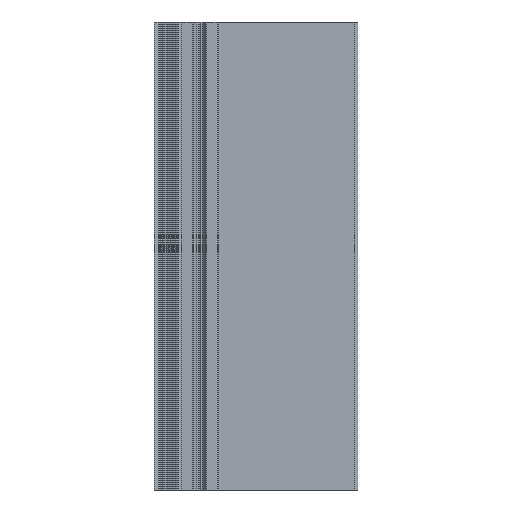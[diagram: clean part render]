
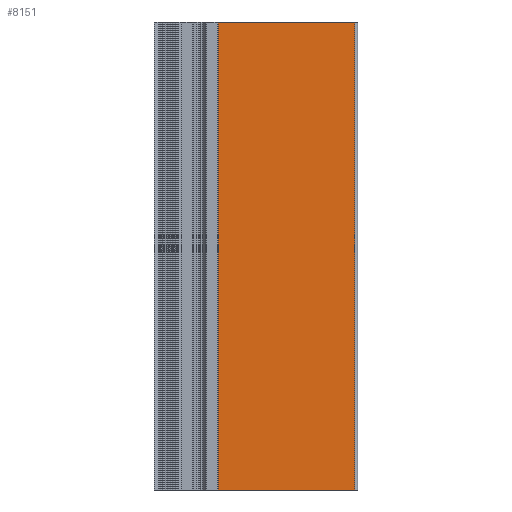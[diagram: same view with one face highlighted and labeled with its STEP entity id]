
A CAD part, front view. The second image highlights one B-rep face of the part: STEP entity #8151.
In plain terms, the highlighted planar face has unit normal (0, -1, 0).
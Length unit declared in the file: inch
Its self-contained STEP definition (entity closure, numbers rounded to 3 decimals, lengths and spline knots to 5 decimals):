
#38 = DIRECTION ( 'NONE',  ( 1., 0., 0. ) ) ;
#209 = VECTOR ( 'NONE', #5958, 39.37008 ) ;
#284 = CARTESIAN_POINT ( 'NONE',  ( -0.47877, -1.43606, -6. ) ) ;
#485 = FACE_OUTER_BOUND ( 'NONE', #5348, .T. ) ;
#704 = VERTEX_POINT ( 'NONE', #1952 ) ;
#1099 = EDGE_CURVE ( 'NONE', #7245, #704, #6972, .T. ) ;
#1256 = VERTEX_POINT ( 'NONE', #4640 ) ;
#1563 = CARTESIAN_POINT ( 'NONE',  ( -0.47877, -1.43606, 6. ) ) ;
#1734 = PLANE ( 'NONE',  #2864 ) ;
#1825 = DIRECTION ( 'NONE',  ( 0., 0., 1. ) ) ;
#1900 = DIRECTION ( 'NONE',  ( 1., 0., 0. ) ) ;
#1952 = CARTESIAN_POINT ( 'NONE',  ( 3.01997, -1.43606, -6. ) ) ;
#1990 = ORIENTED_EDGE ( 'NONE', *, *, #1099, .T. ) ;
#2270 = VECTOR ( 'NONE', #1825, 39.37008 ) ;
#2322 = LINE ( 'NONE', #284, #209 ) ;
#2513 = VECTOR ( 'NONE', #38, 39.37008 ) ;
#2847 = EDGE_CURVE ( 'NONE', #7779, #1256, #8218, .T. ) ;
#2864 = AXIS2_PLACEMENT_3D ( 'NONE', #3600, #6633, #2939 ) ;
#2939 = DIRECTION ( 'NONE',  ( 0., 0., -1. ) ) ;
#3114 = CARTESIAN_POINT ( 'NONE',  ( -0.47877, -1.43606, -6. ) ) ;
#3195 = LINE ( 'NONE', #3855, #2270 ) ;
#3600 = CARTESIAN_POINT ( 'NONE',  ( -0.47877, -1.43606, -6. ) ) ;
#3845 = VECTOR ( 'NONE', #1900, 39.37008 ) ;
#3855 = CARTESIAN_POINT ( 'NONE',  ( 3.01997, -1.43606, -6. ) ) ;
#3872 = EDGE_CURVE ( 'NONE', #704, #1256, #3195, .T. ) ;
#4640 = CARTESIAN_POINT ( 'NONE',  ( 3.01997, -1.43606, 6. ) ) ;
#5054 = CARTESIAN_POINT ( 'NONE',  ( -0.47877, -1.43606, 6. ) ) ;
#5348 = EDGE_LOOP ( 'NONE', ( #1990, #7547, #5415, #7717 ) ) ;
#5415 = ORIENTED_EDGE ( 'NONE', *, *, #2847, .F. ) ;
#5856 = CARTESIAN_POINT ( 'NONE',  ( -0.47877, -1.43606, -6. ) ) ;
#5958 = DIRECTION ( 'NONE',  ( 0., 0., 1. ) ) ;
#6633 = DIRECTION ( 'NONE',  ( 0., -1., 0. ) ) ;
#6972 = LINE ( 'NONE', #3114, #2513 ) ;
#7245 = VERTEX_POINT ( 'NONE', #5856 ) ;
#7547 = ORIENTED_EDGE ( 'NONE', *, *, #3872, .T. ) ;
#7717 = ORIENTED_EDGE ( 'NONE', *, *, #7734, .F. ) ;
#7734 = EDGE_CURVE ( 'NONE', #7245, #7779, #2322, .T. ) ;
#7779 = VERTEX_POINT ( 'NONE', #1563 ) ;
#8151 = ADVANCED_FACE ( 'NONE', ( #485 ), #1734, .T. ) ;
#8218 = LINE ( 'NONE', #5054, #3845 ) ;
